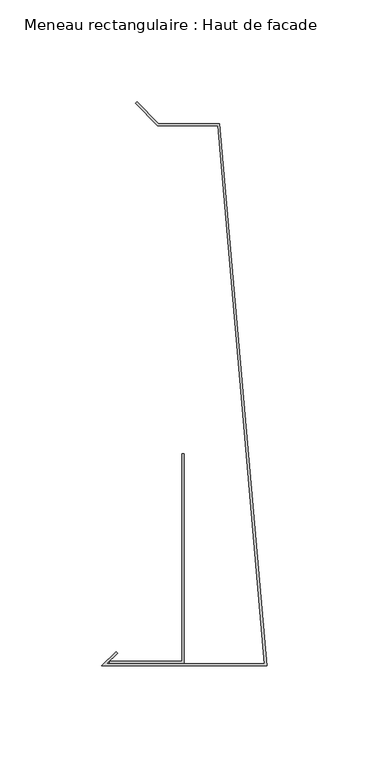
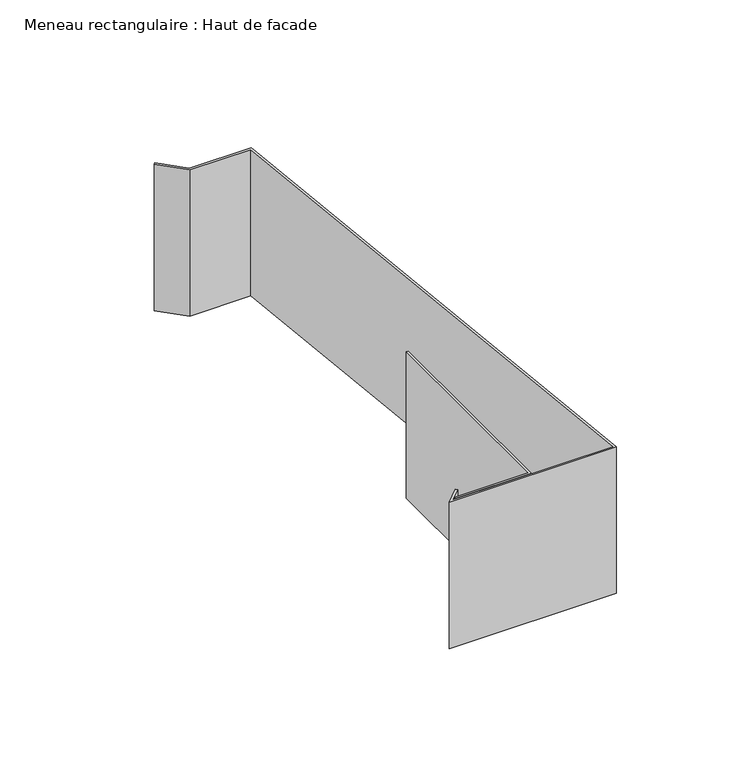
"""IFC4 building model written with IfcOpenShell, lengths in millimetres: member geometry, Meneau rectangulaire : Haut de facade."""

from ifc_helpers import new_model, si_unit, frame, origin, place, context, project, spatial, polyline, outline, extrude, source, transform, mapped, element, save


def meneau_rectangulaire_haut_de_facade_870d9ed5(model_context):
    return source(origin(), model_context, "Body", "SweptSolid", [
        extrude(outline(polyline([(-24.0647895, 160.703755), (-53.5626719, 160.703755), (-64.4621669, 171.6032499), (-63.7550601, 172.3103567), (-53.1484584, 161.703755), (-23.1484584, 161.703755), (0.0, -104.2), (-81.0, -104.2), (-73.9289322, -97.1289322), (-73.2218254, -97.836039), (-78.5857864, -103.2), (-1.0913085, -103.2), (-24.0647895, 160.703755)])), frame((0.0, 0.0, -74.86437), z_axis=(0.0, 0.0, 1.0), x_axis=(1.0, 0.0, 0.0)), (0.0, 0.0, 1.0), 74.86437),
        extrude(outline(polyline([(-40.5477541, -102.9846816), (-77.0752814, -102.9846816), (-77.0752814, -101.9846816), (-41.5477541, -101.9846816), (-41.5477541, -0.0384227), (-40.5477541, -0.0384227), (-40.5477541, -102.9846816)])), frame((0.0, 0.0, -74.86437), z_axis=(0.0, 0.0, 1.0), x_axis=(1.0, 0.0, 0.0)), (0.0, 0.0, 1.0), 74.86437),
    ])


if __name__ == "__main__":
    model = new_model("IFC4")
    model_context = context("Model", 3, world=origin())
    ifc_project = project(units=[si_unit("LENGTHUNIT", "METRE", prefix="MILLI")], contexts=[model_context])
    site = spatial("IfcSite", under=ifc_project)
    building = spatial("IfcBuilding", under=site)
    placement = place(None, origin())
    meneau_rectangulaire_haut_de_facade_shape = meneau_rectangulaire_haut_de_facade_870d9ed5(model_context)
    element("IfcMember", 1, ObjectType="Meneau rectangulaire : Haut de facade", at=placement, inside=building, context=model_context, shape_type="MappedRepresentation", body=[
        mapped(meneau_rectangulaire_haut_de_facade_shape, transform((0.0, 0.0, 0.0), x_axis=(1.0, 0.0, 0.0), y_axis=(0.0, 1.0, 0.0), z_axis=(0.0, 0.0, 1.0))),
    ])
    save(model, "model.ifc")
